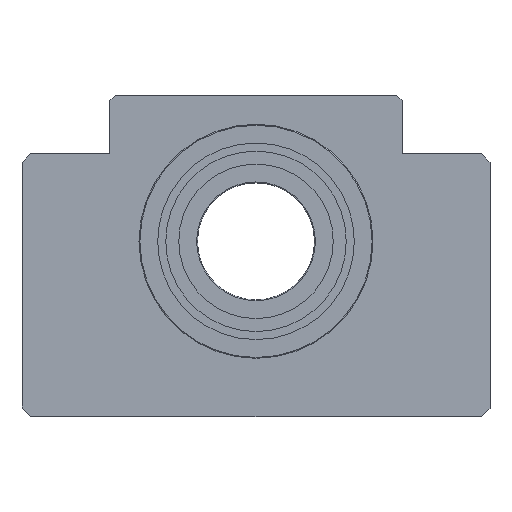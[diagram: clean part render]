
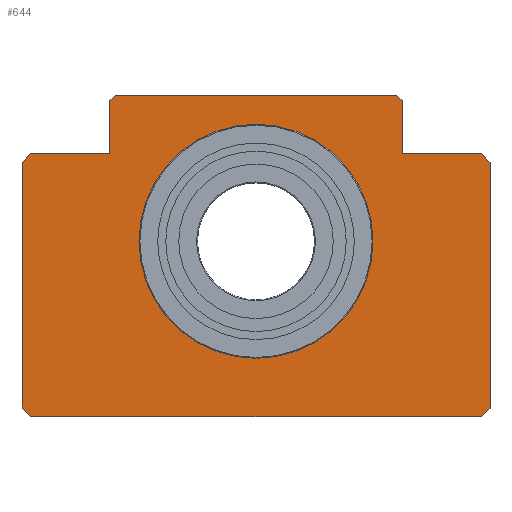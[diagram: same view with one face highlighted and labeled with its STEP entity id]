
A CAD part, top view. The second image highlights one B-rep face of the part: STEP entity #644.
In plain terms, the highlighted planar face has unit normal (0, 0, 1).
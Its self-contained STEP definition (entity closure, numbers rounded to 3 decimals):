
#54=CIRCLE('',#721,40.);
#160=ORIENTED_EDGE('',*,*,#282,.F.);
#161=ORIENTED_EDGE('',*,*,#231,.T.);
#162=ORIENTED_EDGE('',*,*,#235,.T.);
#163=ORIENTED_EDGE('',*,*,#240,.T.);
#164=ORIENTED_EDGE('',*,*,#243,.T.);
#165=ORIENTED_EDGE('',*,*,#246,.T.);
#166=ORIENTED_EDGE('',*,*,#252,.T.);
#167=ORIENTED_EDGE('',*,*,#257,.T.);
#168=ORIENTED_EDGE('',*,*,#258,.T.);
#169=ORIENTED_EDGE('',*,*,#261,.T.);
#170=ORIENTED_EDGE('',*,*,#264,.T.);
#171=ORIENTED_EDGE('',*,*,#267,.T.);
#172=ORIENTED_EDGE('',*,*,#270,.T.);
#173=ORIENTED_EDGE('',*,*,#276,.T.);
#174=ORIENTED_EDGE('',*,*,#280,.T.);
#231=EDGE_CURVE('',#307,#308,#367,.T.);
#235=EDGE_CURVE('',#308,#311,#371,.T.);
#240=EDGE_CURVE('',#311,#315,#374,.T.);
#243=EDGE_CURVE('',#315,#317,#377,.T.);
#246=EDGE_CURVE('',#317,#319,#380,.T.);
#252=EDGE_CURVE('',#319,#324,#385,.T.);
#257=EDGE_CURVE('',#324,#326,#389,.T.);
#258=EDGE_CURVE('',#326,#327,#390,.T.);
#261=EDGE_CURVE('',#327,#329,#393,.T.);
#264=EDGE_CURVE('',#329,#331,#396,.T.);
#267=EDGE_CURVE('',#331,#333,#399,.T.);
#270=EDGE_CURVE('',#333,#335,#402,.T.);
#276=EDGE_CURVE('',#335,#340,#407,.T.);
#280=EDGE_CURVE('',#340,#307,#410,.T.);
#282=EDGE_CURVE('',#342,#342,#54,.T.);
#307=VERTEX_POINT('',#978);
#308=VERTEX_POINT('',#979);
#311=VERTEX_POINT('',#987);
#315=VERTEX_POINT('',#997);
#317=VERTEX_POINT('',#1003);
#319=VERTEX_POINT('',#1009);
#324=VERTEX_POINT('',#1020);
#326=VERTEX_POINT('',#1028);
#327=VERTEX_POINT('',#1032);
#329=VERTEX_POINT('',#1038);
#331=VERTEX_POINT('',#1044);
#333=VERTEX_POINT('',#1050);
#335=VERTEX_POINT('',#1056);
#340=VERTEX_POINT('',#1067);
#342=VERTEX_POINT('',#1079);
#367=LINE('',#977,#411);
#371=LINE('',#986,#415);
#374=LINE('',#996,#418);
#377=LINE('',#1002,#421);
#380=LINE('',#1008,#424);
#385=LINE('',#1021,#429);
#389=LINE('',#1029,#433);
#390=LINE('',#1031,#434);
#393=LINE('',#1037,#437);
#396=LINE('',#1043,#440);
#399=LINE('',#1049,#443);
#402=LINE('',#1055,#446);
#407=LINE('',#1068,#451);
#410=LINE('',#1073,#454);
#411=VECTOR('',#779,1000.);
#415=VECTOR('',#785,1000.);
#418=VECTOR('',#794,1000.);
#421=VECTOR('',#799,1000.);
#424=VECTOR('',#804,1000.);
#429=VECTOR('',#813,1000.);
#433=VECTOR('',#821,1000.);
#434=VECTOR('',#824,1000.);
#437=VECTOR('',#829,1000.);
#440=VECTOR('',#834,1000.);
#443=VECTOR('',#839,1000.);
#446=VECTOR('',#844,1000.);
#451=VECTOR('',#853,1000.);
#454=VECTOR('',#860,1000.);
#473=EDGE_LOOP('',(#160));
#474=EDGE_LOOP('',(#161,#162,#163,#164,#165,#166,#167,#168,#169,#170,#171,
#172,#173,#174));
#547=FACE_BOUND('',#473,.T.);
#548=FACE_BOUND('',#474,.T.);
#618=PLANE('',#720);
#644=ADVANCED_FACE('',(#547,#548),#618,.T.);
#720=AXIS2_PLACEMENT_3D('',#1077,#865,#866);
#721=AXIS2_PLACEMENT_3D('',#1078,#867,#868);
#779=DIRECTION('',(0.,-1.,0.));
#785=DIRECTION('',(0.707,-0.707,0.));
#794=DIRECTION('',(1.,0.,0.));
#799=DIRECTION('',(0.707,0.707,0.));
#804=DIRECTION('',(0.,1.,0.));
#813=DIRECTION('',(-0.707,0.707,0.));
#821=DIRECTION('',(-1.,0.,0.));
#824=DIRECTION('',(0.,1.,0.));
#829=DIRECTION('',(-0.707,0.707,0.));
#834=DIRECTION('',(-1.,0.,0.));
#839=DIRECTION('',(-0.707,-0.707,0.));
#844=DIRECTION('',(0.,-1.,0.));
#853=DIRECTION('',(-1.,0.,0.));
#860=DIRECTION('',(-0.707,-0.707,0.));
#865=DIRECTION('',(0.,0.,1.));
#866=DIRECTION('',(1.,0.,0.));
#867=DIRECTION('',(0.,0.,1.));
#868=DIRECTION('',(1.,0.,0.));
#977=CARTESIAN_POINT('',(-80.,27.,0.));
#978=CARTESIAN_POINT('',(-80.,27.,0.));
#979=CARTESIAN_POINT('',(-80.,-57.,0.));
#986=CARTESIAN_POINT('',(-80.,-57.,0.));
#987=CARTESIAN_POINT('',(-77.,-60.,0.));
#996=CARTESIAN_POINT('',(-77.,-60.,0.));
#997=CARTESIAN_POINT('',(77.,-60.,0.));
#1002=CARTESIAN_POINT('',(77.,-60.,0.));
#1003=CARTESIAN_POINT('',(80.,-57.,0.));
#1008=CARTESIAN_POINT('',(80.,-57.,0.));
#1009=CARTESIAN_POINT('',(80.,27.,0.));
#1020=CARTESIAN_POINT('',(77.,30.,0.));
#1021=CARTESIAN_POINT('',(80.,27.,0.));
#1028=CARTESIAN_POINT('',(50.,30.,0.));
#1029=CARTESIAN_POINT('',(77.,30.,0.));
#1031=CARTESIAN_POINT('',(50.,30.,0.));
#1032=CARTESIAN_POINT('',(50.,48.,0.));
#1037=CARTESIAN_POINT('',(50.,48.,0.));
#1038=CARTESIAN_POINT('',(48.,50.,0.));
#1043=CARTESIAN_POINT('',(48.,50.,0.));
#1044=CARTESIAN_POINT('',(-48.,50.,0.));
#1049=CARTESIAN_POINT('',(-48.,50.,0.));
#1050=CARTESIAN_POINT('',(-50.,48.,0.));
#1055=CARTESIAN_POINT('',(-50.,48.,0.));
#1056=CARTESIAN_POINT('',(-50.,30.,0.));
#1067=CARTESIAN_POINT('',(-77.,30.,0.));
#1068=CARTESIAN_POINT('',(-50.,30.,0.));
#1073=CARTESIAN_POINT('',(-77.,30.,0.));
#1077=CARTESIAN_POINT('',(0.,0.,0.));
#1078=CARTESIAN_POINT('',(0.,0.,0.));
#1079=CARTESIAN_POINT('',(40.,0.,0.));
